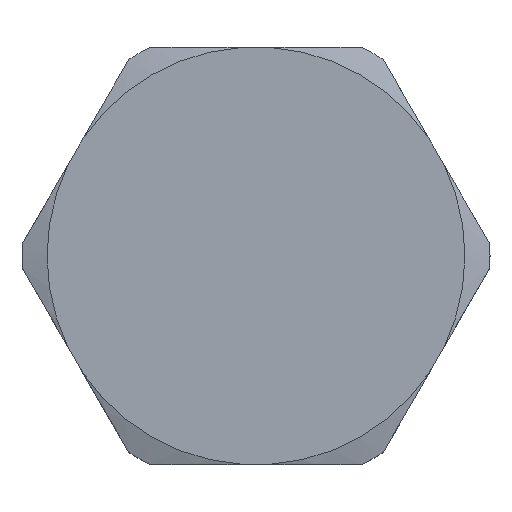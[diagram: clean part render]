
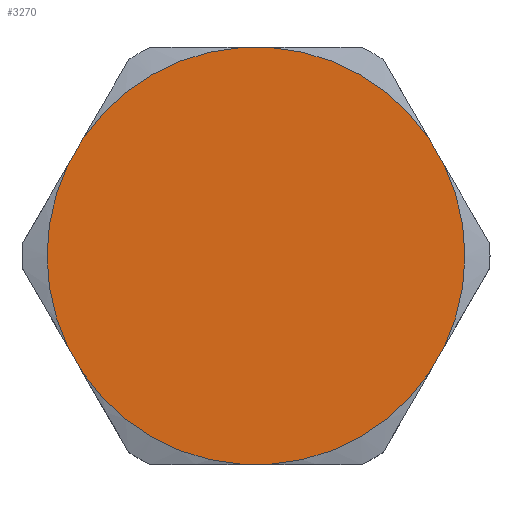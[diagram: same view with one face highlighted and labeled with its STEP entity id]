
A CAD part, top view. The second image highlights one B-rep face of the part: STEP entity #3270.
In plain terms, the highlighted planar face has unit normal (0, 0, 1).
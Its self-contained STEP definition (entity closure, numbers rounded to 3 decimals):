
#1122=CARTESIAN_POINT('',(-11.42,-5.557,7.823));
#1146=CARTESIAN_POINT('',(0.,0.,7.823));
#1147=DIRECTION('',(0.,0.,-1.));
#1148=DIRECTION('',(0.899,0.438,0.));
#1149=AXIS2_PLACEMENT_3D('',#1146,#1147,#1148);
#1151=CARTESIAN_POINT('',(0.,0.,7.823));
#1152=DIRECTION('',(0.,0.,-1.));
#1153=DIRECTION('',(1.,0.,0.));
#1154=AXIS2_PLACEMENT_3D('',#1151,#1152,#1153);
#1156=DIRECTION('',(-0.5,-0.866,0.));
#1157=VECTOR('',#1156,1.795);
#1158=CARTESIAN_POINT('',(11.42,-5.557,7.823));
#1159=LINE('',#1158,#1157);
#1160=CARTESIAN_POINT('',(0.,0.,7.823));
#1161=DIRECTION('',(0.,0.,-1.));
#1162=DIRECTION('',(0.829,-0.56,0.));
#1163=AXIS2_PLACEMENT_3D('',#1160,#1161,#1162);
#1165=DIRECTION('',(-1.,0.,0.));
#1166=VECTOR('',#1165,1.795);
#1167=CARTESIAN_POINT('',(0.897,-12.668,7.823));
#1168=LINE('',#1167,#1166);
#1169=CARTESIAN_POINT('',(0.,0.,7.823));
#1170=DIRECTION('',(0.,0.,-1.));
#1171=DIRECTION('',(-0.071,-0.998,0.));
#1172=AXIS2_PLACEMENT_3D('',#1169,#1170,#1171);
#1174=DIRECTION('',(-0.5,0.866,0.));
#1175=VECTOR('',#1174,1.795);
#1176=CARTESIAN_POINT('',(-10.522,-7.111,7.823));
#1177=LINE('',#1176,#1175);
#1178=CARTESIAN_POINT('',(0.,0.,7.823));
#1179=DIRECTION('',(0.,0.,-1.));
#1180=DIRECTION('',(-0.899,-0.438,0.));
#1181=AXIS2_PLACEMENT_3D('',#1178,#1179,#1180);
#1183=CARTESIAN_POINT('',(0.,0.,7.823));
#1184=DIRECTION('',(0.,0.,-1.));
#1185=DIRECTION('',(-1.,0.,0.));
#1186=AXIS2_PLACEMENT_3D('',#1183,#1184,#1185);
#1188=DIRECTION('',(0.5,0.866,0.));
#1189=VECTOR('',#1188,1.795);
#1190=CARTESIAN_POINT('',(-11.42,5.557,7.823));
#1191=LINE('',#1190,#1189);
#1192=CARTESIAN_POINT('',(0.,0.,7.823));
#1193=DIRECTION('',(0.,0.,-1.));
#1194=DIRECTION('',(-0.829,0.56,0.));
#1195=AXIS2_PLACEMENT_3D('',#1192,#1193,#1194);
#1197=DIRECTION('',(1.,0.,0.));
#1198=VECTOR('',#1197,1.795);
#1199=CARTESIAN_POINT('',(-0.897,12.668,7.823));
#1200=LINE('',#1199,#1198);
#1201=CARTESIAN_POINT('',(0.,0.,7.823));
#1202=DIRECTION('',(0.,0.,-1.));
#1203=DIRECTION('',(0.071,0.998,0.));
#1204=AXIS2_PLACEMENT_3D('',#1201,#1202,#1203);
#1206=DIRECTION('',(0.5,-0.866,0.));
#1207=VECTOR('',#1206,1.795);
#1208=CARTESIAN_POINT('',(10.522,7.111,7.823));
#1209=LINE('',#1208,#1207);
#1352=CARTESIAN_POINT('',(10.522,-7.111,7.823));
#1379=CARTESIAN_POINT('',(-0.897,-12.668,7.823));
#1702=VERTEX_POINT('',#1352);
#1703=CARTESIAN_POINT('',(11.42,-5.557,7.823));
#1704=VERTEX_POINT('',#1703);
#1710=VERTEX_POINT('',#1379);
#1711=CARTESIAN_POINT('',(0.897,-12.668,7.823));
#1712=VERTEX_POINT('',#1711);
#1718=VERTEX_POINT('',#1122);
#1719=CARTESIAN_POINT('',(-10.522,-7.111,7.823));
#1720=VERTEX_POINT('',#1719);
#1730=CARTESIAN_POINT('',(-12.7,0.,7.823));
#1731=CARTESIAN_POINT('',(-11.42,5.557,7.823));
#1732=VERTEX_POINT('',#1730);
#1733=VERTEX_POINT('',#1731);
#1734=CARTESIAN_POINT('',(11.42,5.557,7.823));
#1735=CARTESIAN_POINT('',(12.7,0.,7.823));
#1736=VERTEX_POINT('',#1734);
#1737=VERTEX_POINT('',#1735);
#1738=CARTESIAN_POINT('',(-10.522,7.111,7.823));
#1739=VERTEX_POINT('',#1738);
#1740=CARTESIAN_POINT('',(-0.897,12.668,7.823));
#1741=VERTEX_POINT('',#1740);
#1742=CARTESIAN_POINT('',(0.897,12.668,7.823));
#1743=VERTEX_POINT('',#1742);
#1744=CARTESIAN_POINT('',(10.522,7.111,7.823));
#1745=VERTEX_POINT('',#1744);
#3240=CARTESIAN_POINT('',(0.,0.,7.823));
#3241=DIRECTION('',(0.,0.,1.));
#3242=DIRECTION('',(1.,0.,0.));
#3243=AXIS2_PLACEMENT_3D('',#3240,#3241,#3242);
#3244=PLANE('',#3243);
#3246=ORIENTED_EDGE('',*,*,#3245,.T.);
#3248=ORIENTED_EDGE('',*,*,#3247,.T.);
#3249=ORIENTED_EDGE('',*,*,#3106,.T.);
#3251=ORIENTED_EDGE('',*,*,#3250,.T.);
#3252=ORIENTED_EDGE('',*,*,#3142,.T.);
#3254=ORIENTED_EDGE('',*,*,#3253,.T.);
#3255=ORIENTED_EDGE('',*,*,#3178,.T.);
#3256=ORIENTED_EDGE('',*,*,#3230,.T.);
#3257=ORIENTED_EDGE('',*,*,#3228,.T.);
#3259=ORIENTED_EDGE('',*,*,#3258,.T.);
#3261=ORIENTED_EDGE('',*,*,#3260,.T.);
#3263=ORIENTED_EDGE('',*,*,#3262,.T.);
#3265=ORIENTED_EDGE('',*,*,#3264,.T.);
#3267=ORIENTED_EDGE('',*,*,#3266,.T.);
#3268=EDGE_LOOP('',(#3246,#3248,#3249,#3251,#3252,#3254,#3255,#3256,#3257,#3259,
#3261,#3263,#3265,#3267));
#3269=FACE_OUTER_BOUND('',#3268,.F.);
#3270=ADVANCED_FACE('',(#3269),#3244,.T.);
#1150=CIRCLE('',#1149,12.7);
#1155=CIRCLE('',#1154,12.7);
#1164=CIRCLE('',#1163,12.7);
#1173=CIRCLE('',#1172,12.7);
#1182=CIRCLE('',#1181,12.7);
#1187=CIRCLE('',#1186,12.7);
#1196=CIRCLE('',#1195,12.7);
#1205=CIRCLE('',#1204,12.7);
#3106=EDGE_CURVE('',#1704,#1702,#1159,.T.);
#3142=EDGE_CURVE('',#1712,#1710,#1168,.T.);
#3178=EDGE_CURVE('',#1720,#1718,#1177,.T.);
#3228=EDGE_CURVE('',#1732,#1733,#1187,.T.);
#3230=EDGE_CURVE('',#1718,#1732,#1182,.T.);
#3245=EDGE_CURVE('',#1736,#1737,#1150,.T.);
#3247=EDGE_CURVE('',#1737,#1704,#1155,.T.);
#3250=EDGE_CURVE('',#1702,#1712,#1164,.T.);
#3253=EDGE_CURVE('',#1710,#1720,#1173,.T.);
#3258=EDGE_CURVE('',#1733,#1739,#1191,.T.);
#3260=EDGE_CURVE('',#1739,#1741,#1196,.T.);
#3262=EDGE_CURVE('',#1741,#1743,#1200,.T.);
#3264=EDGE_CURVE('',#1743,#1745,#1205,.T.);
#3266=EDGE_CURVE('',#1745,#1736,#1209,.T.);
